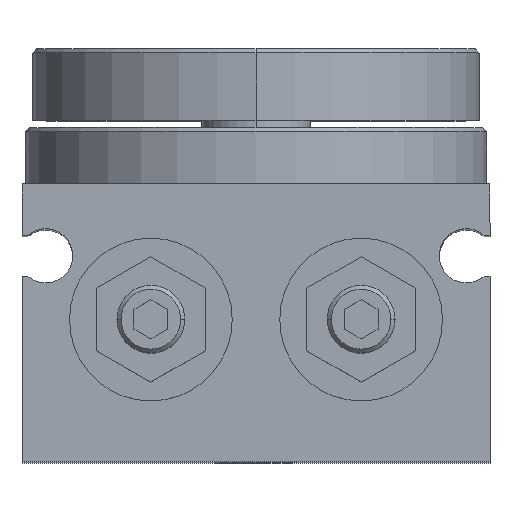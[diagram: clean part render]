
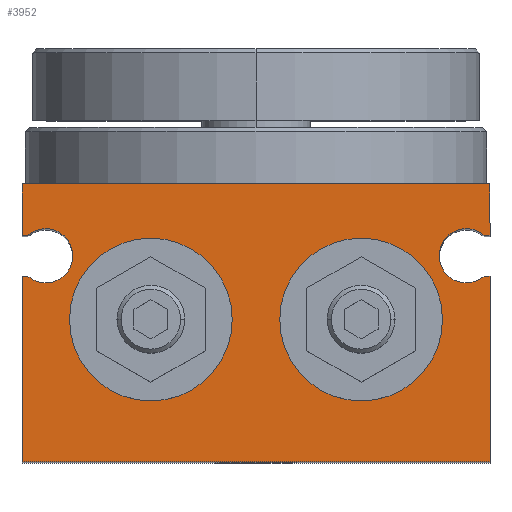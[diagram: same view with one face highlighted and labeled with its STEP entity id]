
A CAD part, top view. The second image highlights one B-rep face of the part: STEP entity #3952.
In plain terms, the highlighted planar face has unit normal (0, 0, 1).
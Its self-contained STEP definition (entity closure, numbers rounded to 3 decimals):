
#25 = VERTEX_POINT ( 'NONE', #8333 ) ;
#63 = CIRCLE ( 'NONE', #2185, 6. ) ;
#65 = DIRECTION ( 'NONE',  ( 1., 0., 0. ) ) ;
#132 = DIRECTION ( 'NONE',  ( -1., 0., 0. ) ) ;
#149 = AXIS2_PLACEMENT_3D ( 'NONE', #8789, #1469, #8877 ) ;
#157 = CARTESIAN_POINT ( 'NONE',  ( 7.75, 0., 30. ) ) ;
#177 = CARTESIAN_POINT ( 'NONE',  ( -15.5, 4.7, 30. ) ) ;
#187 = CIRCLE ( 'NONE', #950, 2. ) ;
#321 = DIRECTION ( 'NONE',  ( 0., 0., 1. ) ) ;
#403 = VERTEX_POINT ( 'NONE', #8273 ) ;
#598 = ORIENTED_EDGE ( 'NONE', *, *, #7926, .T. ) ;
#652 = VECTOR ( 'NONE', #3416, 1000. ) ;
#830 = EDGE_CURVE ( 'NONE', #5913, #3250, #7547, .T. ) ;
#860 = DIRECTION ( 'NONE',  ( -1., 0., 0. ) ) ;
#873 = VERTEX_POINT ( 'NONE', #5271 ) ;
#904 = CARTESIAN_POINT ( 'NONE',  ( -17.25, 3.2, 30. ) ) ;
#950 = AXIS2_PLACEMENT_3D ( 'NONE', #9406, #5177, #1559 ) ;
#981 = CARTESIAN_POINT ( 'NONE',  ( -15.5, 4.7, 30. ) ) ;
#1285 = AXIS2_PLACEMENT_3D ( 'NONE', #3058, #1683, #65 ) ;
#1310 = ORIENTED_EDGE ( 'NONE', *, *, #6758, .T. ) ;
#1316 = DIRECTION ( 'NONE',  ( 0., 1., 0. ) ) ;
#1351 = CARTESIAN_POINT ( 'NONE',  ( 1.75, 0., 30. ) ) ;
#1469 = DIRECTION ( 'NONE',  ( 0., 0., 1. ) ) ;
#1507 = VERTEX_POINT ( 'NONE', #1351 ) ;
#1545 = FACE_OUTER_BOUND ( 'NONE', #4456, .T. ) ;
#1559 = DIRECTION ( 'NONE',  ( 1., 0., 0. ) ) ;
#1683 = DIRECTION ( 'NONE',  ( 0., 0., 1. ) ) ;
#1693 = DIRECTION ( 'NONE',  ( 1., 0., 0. ) ) ;
#1727 = DIRECTION ( 'NONE',  ( 0., 0., 1. ) ) ;
#1836 = LINE ( 'NONE', #4829, #2503 ) ;
#1840 = DIRECTION ( 'NONE',  ( -1., 0., 0. ) ) ;
#1854 = CARTESIAN_POINT ( 'NONE',  ( -17.25, 10., 30. ) ) ;
#1927 = VERTEX_POINT ( 'NONE', #9369 ) ;
#1945 = VERTEX_POINT ( 'NONE', #4907 ) ;
#1965 = ORIENTED_EDGE ( 'NONE', *, *, #2398, .F. ) ;
#2100 = EDGE_CURVE ( 'NONE', #6391, #1945, #3650, .T. ) ;
#2185 = AXIS2_PLACEMENT_3D ( 'NONE', #157, #6759, #6572 ) ;
#2209 = LINE ( 'NONE', #8540, #2943 ) ;
#2276 = VECTOR ( 'NONE', #5890, 1000. ) ;
#2301 = EDGE_LOOP ( 'NONE', ( #6910, #8503 ) ) ;
#2303 = CARTESIAN_POINT ( 'NONE',  ( -7.75, 0., 30. ) ) ;
#2367 = VERTEX_POINT ( 'NONE', #8603 ) ;
#2398 = EDGE_CURVE ( 'NONE', #2814, #5341, #7169, .T. ) ;
#2410 = EDGE_CURVE ( 'NONE', #403, #1507, #9268, .T. ) ;
#2411 = DIRECTION ( 'NONE',  ( 0., 0., 1. ) ) ;
#2503 = VECTOR ( 'NONE', #3393, 1000. ) ;
#2610 = LINE ( 'NONE', #1854, #652 ) ;
#2640 = LINE ( 'NONE', #3488, #3736 ) ;
#2681 = EDGE_CURVE ( 'NONE', #1927, #9067, #3034, .T. ) ;
#2763 = ORIENTED_EDGE ( 'NONE', *, *, #2100, .F. ) ;
#2814 = VERTEX_POINT ( 'NONE', #2881 ) ;
#2848 = ORIENTED_EDGE ( 'NONE', *, *, #9131, .F. ) ;
#2881 = CARTESIAN_POINT ( 'NONE',  ( 17.25, 6.2, 30. ) ) ;
#2943 = VECTOR ( 'NONE', #1316, 1000. ) ;
#3034 = CIRCLE ( 'NONE', #8347, 2. ) ;
#3058 = CARTESIAN_POINT ( 'NONE',  ( -7.75, 0., 30. ) ) ;
#3115 = CARTESIAN_POINT ( 'NONE',  ( -17.25, -10.5, 30. ) ) ;
#3130 = LINE ( 'NONE', #4743, #3878 ) ;
#3250 = VERTEX_POINT ( 'NONE', #4045 ) ;
#3329 = VECTOR ( 'NONE', #3839, 1000. ) ;
#3346 = ORIENTED_EDGE ( 'NONE', *, *, #3884, .F. ) ;
#3369 = CARTESIAN_POINT ( 'NONE',  ( 16.823, 6.2, 30. ) ) ;
#3393 = DIRECTION ( 'NONE',  ( 0., 1., 0. ) ) ;
#3399 = ORIENTED_EDGE ( 'NONE', *, *, #3936, .F. ) ;
#3416 = DIRECTION ( 'NONE',  ( -1., 0., 0. ) ) ;
#3488 = CARTESIAN_POINT ( 'NONE',  ( 17.25, 3.2, 30. ) ) ;
#3650 = LINE ( 'NONE', #904, #3329 ) ;
#3691 = CARTESIAN_POINT ( 'NONE',  ( -17.25, 10., 30. ) ) ;
#3706 = DIRECTION ( 'NONE',  ( 0., -1., 0. ) ) ;
#3721 = EDGE_CURVE ( 'NONE', #2814, #7040, #2209, .T. ) ;
#3736 = VECTOR ( 'NONE', #5591, 1000. ) ;
#3753 = CARTESIAN_POINT ( 'NONE',  ( -16.823, 6.2, 30. ) ) ;
#3838 = EDGE_CURVE ( 'NONE', #1507, #403, #63, .T. ) ;
#3839 = DIRECTION ( 'NONE',  ( 1., 0., 0. ) ) ;
#3878 = VECTOR ( 'NONE', #3706, 1000. ) ;
#3883 = CARTESIAN_POINT ( 'NONE',  ( 17.25, 3.2, 30. ) ) ;
#3884 = EDGE_CURVE ( 'NONE', #25, #6430, #4928, .T. ) ;
#3936 = EDGE_CURVE ( 'NONE', #6430, #25, #7655, .T. ) ;
#3952 = ADVANCED_FACE ( 'NONE', ( #8912, #1545, #8774 ), #8148, .T. ) ;
#4045 = CARTESIAN_POINT ( 'NONE',  ( -17.25, 6.2, 30. ) ) ;
#4175 = AXIS2_PLACEMENT_3D ( 'NONE', #5918, #1727, #7297 ) ;
#4313 = ORIENTED_EDGE ( 'NONE', *, *, #8007, .F. ) ;
#4456 = EDGE_LOOP ( 'NONE', ( #2763, #1310, #6282, #8534, #7569, #4313, #1965, #8090, #598, #6256, #2848, #6971, #8412 ) ) ;
#4500 = VECTOR ( 'NONE', #1693, 1000. ) ;
#4743 = CARTESIAN_POINT ( 'NONE',  ( -17.25, 10., 30. ) ) ;
#4829 = CARTESIAN_POINT ( 'NONE',  ( 17.25, 10., 30. ) ) ;
#4907 = CARTESIAN_POINT ( 'NONE',  ( -16.823, 3.2, 30. ) ) ;
#4928 = CIRCLE ( 'NONE', #1285, 6. ) ;
#5060 = AXIS2_PLACEMENT_3D ( 'NONE', #177, #321, #132 ) ;
#5177 = DIRECTION ( 'NONE',  ( 0., 0., 1. ) ) ;
#5271 = CARTESIAN_POINT ( 'NONE',  ( 16.823, 3.2, 30. ) ) ;
#5340 = DIRECTION ( 'NONE',  ( 0., 0., 1. ) ) ;
#5341 = VERTEX_POINT ( 'NONE', #3369 ) ;
#5454 = EDGE_LOOP ( 'NONE', ( #3346, #3399 ) ) ;
#5591 = DIRECTION ( 'NONE',  ( 1., 0., 0. ) ) ;
#5890 = DIRECTION ( 'NONE',  ( -1., 0., 0. ) ) ;
#5913 = VERTEX_POINT ( 'NONE', #9011 ) ;
#5918 = CARTESIAN_POINT ( 'NONE',  ( -17.25, 10., 30. ) ) ;
#5961 = CARTESIAN_POINT ( 'NONE',  ( -1.75, 0., 30. ) ) ;
#6022 = LINE ( 'NONE', #3115, #4500 ) ;
#6049 = EDGE_CURVE ( 'NONE', #7906, #8233, #1836, .T. ) ;
#6256 = ORIENTED_EDGE ( 'NONE', *, *, #830, .T. ) ;
#6282 = ORIENTED_EDGE ( 'NONE', *, *, #7149, .T. ) ;
#6381 = CARTESIAN_POINT ( 'NONE',  ( -16.823, 6.2, 30. ) ) ;
#6391 = VERTEX_POINT ( 'NONE', #8145 ) ;
#6430 = VERTEX_POINT ( 'NONE', #5961 ) ;
#6554 = LINE ( 'NONE', #3753, #8574 ) ;
#6572 = DIRECTION ( 'NONE',  ( 1., 0., 0. ) ) ;
#6758 = EDGE_CURVE ( 'NONE', #6391, #2367, #3130, .T. ) ;
#6759 = DIRECTION ( 'NONE',  ( 0., 0., 1. ) ) ;
#6910 = ORIENTED_EDGE ( 'NONE', *, *, #3838, .F. ) ;
#6934 = CARTESIAN_POINT ( 'NONE',  ( 17.25, -10.5, 30. ) ) ;
#6971 = ORIENTED_EDGE ( 'NONE', *, *, #2681, .F. ) ;
#7040 = VERTEX_POINT ( 'NONE', #8643 ) ;
#7149 = EDGE_CURVE ( 'NONE', #2367, #7906, #6022, .T. ) ;
#7169 = LINE ( 'NONE', #9168, #2276 ) ;
#7297 = DIRECTION ( 'NONE',  ( 1., 0., 0. ) ) ;
#7313 = EDGE_CURVE ( 'NONE', #873, #8233, #2640, .T. ) ;
#7458 = DIRECTION ( 'NONE',  ( 0., -1., 0. ) ) ;
#7547 = LINE ( 'NONE', #3691, #9192 ) ;
#7569 = ORIENTED_EDGE ( 'NONE', *, *, #7313, .F. ) ;
#7655 = CIRCLE ( 'NONE', #8875, 6. ) ;
#7787 = CIRCLE ( 'NONE', #5060, 2. ) ;
#7906 = VERTEX_POINT ( 'NONE', #6934 ) ;
#7926 = EDGE_CURVE ( 'NONE', #7040, #5913, #2610, .T. ) ;
#8007 = EDGE_CURVE ( 'NONE', #5341, #873, #187, .T. ) ;
#8090 = ORIENTED_EDGE ( 'NONE', *, *, #3721, .T. ) ;
#8145 = CARTESIAN_POINT ( 'NONE',  ( -17.25, 3.2, 30. ) ) ;
#8148 = PLANE ( 'NONE',  #4175 ) ;
#8180 = EDGE_CURVE ( 'NONE', #1945, #1927, #7787, .T. ) ;
#8233 = VERTEX_POINT ( 'NONE', #3883 ) ;
#8236 = DIRECTION ( 'NONE',  ( 1., 0., 0. ) ) ;
#8273 = CARTESIAN_POINT ( 'NONE',  ( 13.75, 0., 30. ) ) ;
#8333 = CARTESIAN_POINT ( 'NONE',  ( -13.75, 0., 30. ) ) ;
#8347 = AXIS2_PLACEMENT_3D ( 'NONE', #981, #2411, #1840 ) ;
#8412 = ORIENTED_EDGE ( 'NONE', *, *, #8180, .F. ) ;
#8503 = ORIENTED_EDGE ( 'NONE', *, *, #2410, .F. ) ;
#8534 = ORIENTED_EDGE ( 'NONE', *, *, #6049, .T. ) ;
#8540 = CARTESIAN_POINT ( 'NONE',  ( 17.25, 10., 30. ) ) ;
#8574 = VECTOR ( 'NONE', #860, 1000. ) ;
#8603 = CARTESIAN_POINT ( 'NONE',  ( -17.25, -10.5, 30. ) ) ;
#8643 = CARTESIAN_POINT ( 'NONE',  ( 17.25, 10., 30. ) ) ;
#8774 = FACE_BOUND ( 'NONE', #5454, .T. ) ;
#8789 = CARTESIAN_POINT ( 'NONE',  ( 7.75, 0., 30. ) ) ;
#8875 = AXIS2_PLACEMENT_3D ( 'NONE', #2303, #5340, #8236 ) ;
#8877 = DIRECTION ( 'NONE',  ( 1., 0., 0. ) ) ;
#8912 = FACE_BOUND ( 'NONE', #2301, .T. ) ;
#9011 = CARTESIAN_POINT ( 'NONE',  ( -17.25, 10., 30. ) ) ;
#9067 = VERTEX_POINT ( 'NONE', #6381 ) ;
#9131 = EDGE_CURVE ( 'NONE', #9067, #3250, #6554, .T. ) ;
#9168 = CARTESIAN_POINT ( 'NONE',  ( 16.823, 6.2, 30. ) ) ;
#9192 = VECTOR ( 'NONE', #7458, 1000. ) ;
#9268 = CIRCLE ( 'NONE', #149, 6. ) ;
#9369 = CARTESIAN_POINT ( 'NONE',  ( -13.5, 4.7, 30. ) ) ;
#9406 = CARTESIAN_POINT ( 'NONE',  ( 15.5, 4.7, 30. ) ) ;
